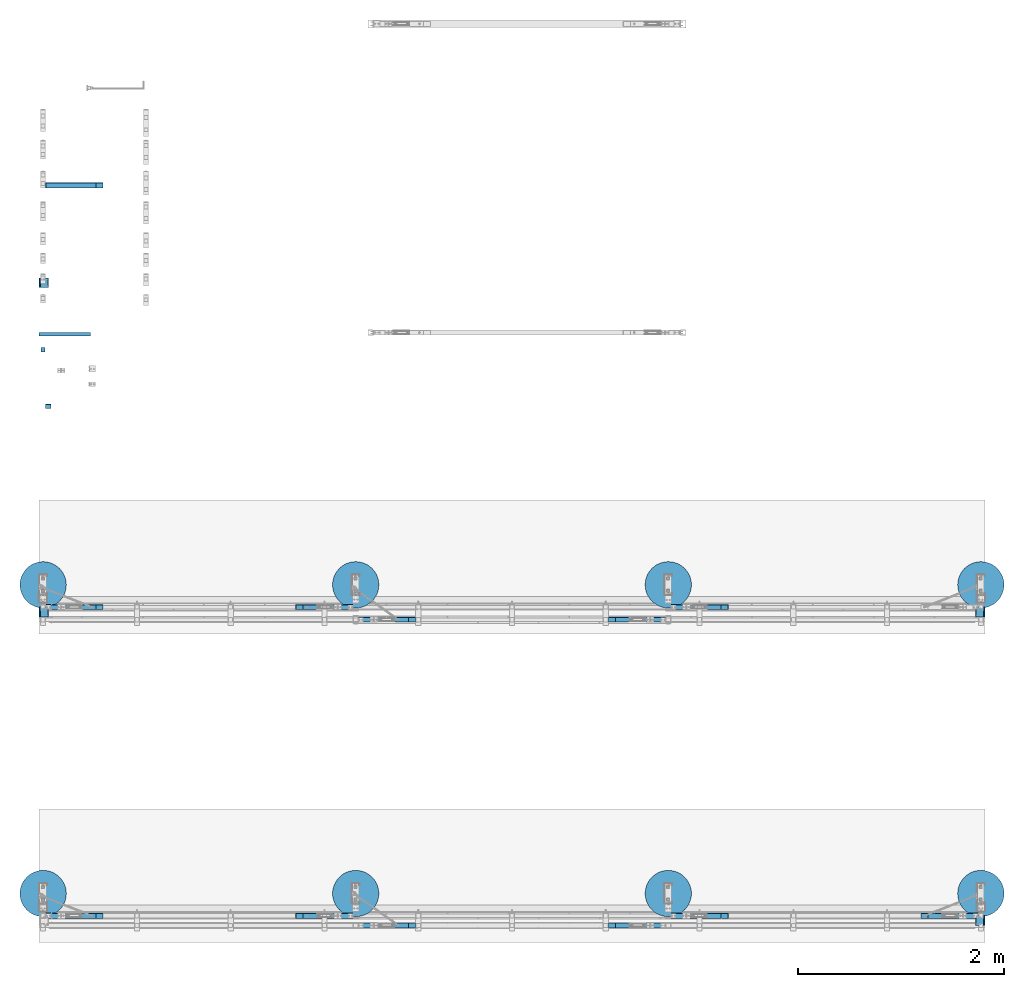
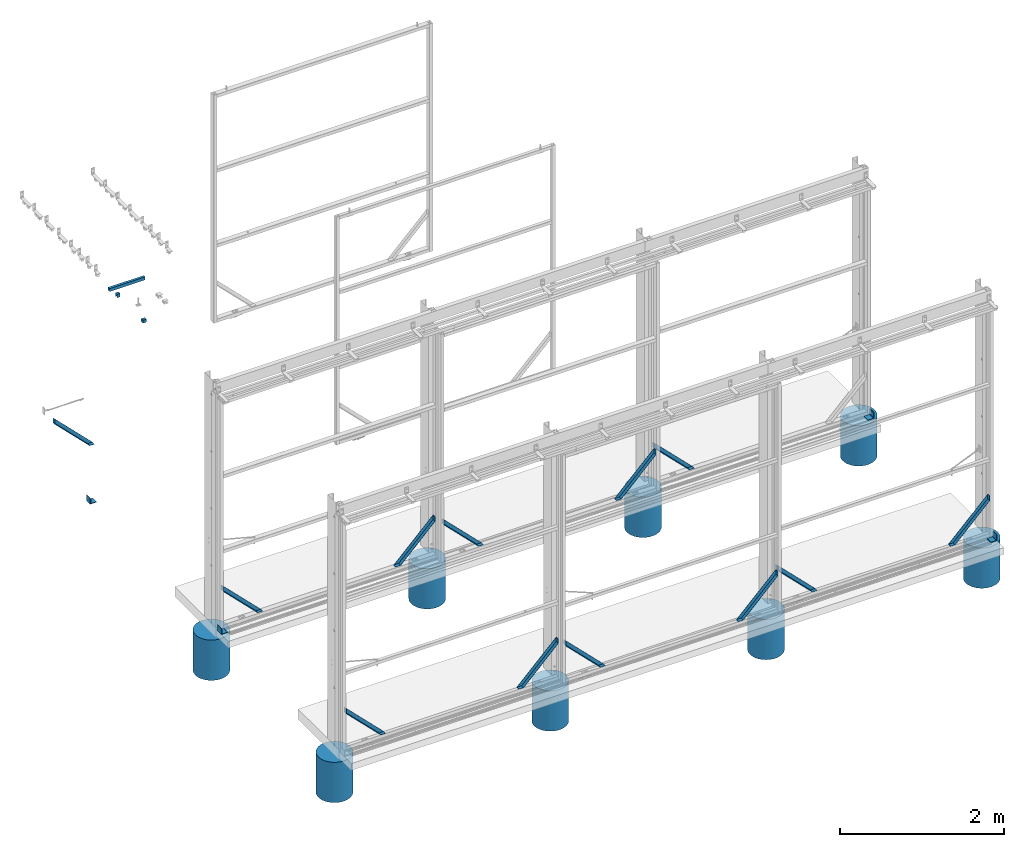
# One storey, part 8 of 91: 27 beams, 27 elements without a shape of their own.
"""IFC2X3 building model written with IfcOpenShell, lengths in millimetres."""

from ifc_helpers import new_model, si_unit, frame, origin_with_axes, origin_2d_with_axis, place, context, subcontext, project, spatial, hollow_rectangle, circle, l_section, c_section, extrude, faceted_brep, material, type_object, element, aggregate, save


model = new_model("IFC2X3")

# Units and contexts
model_context = context("Model", 3, precision=1e-05, world=origin_with_axes())
body_context = subcontext(model_context, "Body", "Model", "MODEL_VIEW")
ifc_project = project(units=[si_unit("LENGTHUNIT", "METRE", prefix="MILLI"), si_unit("AREAUNIT", "SQUARE_METRE"), si_unit("VOLUMEUNIT", "CUBIC_METRE"), si_unit("MASSUNIT", "GRAM", prefix="KILO"), si_unit("TIMEUNIT", "SECOND"), si_unit("PLANEANGLEUNIT", "RADIAN"), si_unit("SOLIDANGLEUNIT", "STERADIAN"), si_unit("THERMODYNAMICTEMPERATUREUNIT", "DEGREE_CELSIUS"), si_unit("LUMINOUSINTENSITYUNIT", "LUMEN")], contexts=[model_context])

# Site, building, storey
site_placement = place(None, origin_with_axes())
site = spatial("IfcSite", under=ifc_project, at=site_placement, Name="Undefined", CompositionType="ELEMENT")
building_placement = place(site_placement, origin_with_axes())
building = spatial("IfcBuilding", under=site, at=building_placement, Name="Undefined", CompositionType="ELEMENT")
storey_placement = place(building_placement, origin_with_axes())
storey = spatial("IfcBuildingStorey", under=building, at=storey_placement, Name="Undefined", CompositionType="ELEMENT", Elevation=0.0)

# Assembly, beam
assembly_1_placement = place(storey_placement, origin_with_axes())
assembly_1 = element("IfcElementAssembly", 1, at=assembly_1_placement, inside=storey, Name="DOOR STOPPER", AssemblyPlace="NOTDEFINED", PredefinedType="RIGID_FRAME")
ifc_material_1 = material(Name="STEEL/300PLUS")
beam_type_1 = type_object("IfcBeamType", Name="EA90*90*8", PredefinedType="NOTDEFINED")
beam_1_placement = place(assembly_1_placement, frame((-116788.84, 90817.6509765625, -12.0), z_axis=(0.0, 0.0, 1.0), x_axis=(0.0, 1.0, 0.0)))
beam_1 = element("IfcBeam", 2, at=beam_1_placement, type_object=beam_type_1, material=ifc_material_1, Name="DOOR STOPPER", ObjectType="EA90*90*8", context=body_context, shape_type="SweptSolid", body=[
    extrude(l_section(Depth=90.0, Width=90.0, Thickness=7.800000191, FilletRadius=8.0, EdgeRadius=5.0, at=origin_2d_with_axis()), frame((95.0, 0.0, 0.0), z_axis=(-1.0, 0.0, 0.0), x_axis=(0.0, -1.0, 0.0)), (0.0, 0.0, 1.0), 95.0),
])
aggregate(assembly_1, [beam_1])

assembly_2_placement = place(storey_placement, origin_with_axes())
assembly_2 = element("IfcElementAssembly", 3, at=assembly_2_placement, inside=storey, Name="DOOR STOPPER", AssemblyPlace="NOTDEFINED", PredefinedType="RIGID_FRAME")
beam_2_placement = place(assembly_2_placement, frame((-107690.34, 87712.6509765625, -12.0), z_axis=(0.0, 0.0, 1.0), x_axis=(0.0, -1.0, 0.0)))
beam_2 = element("IfcBeam", 4, at=beam_2_placement, type_object=beam_type_1, material=ifc_material_1, Name="DOOR STOPPER", ObjectType="EA90*90*8", context=body_context, shape_type="SweptSolid", body=[
    extrude(l_section(Depth=90.0, Width=90.0, Thickness=7.800000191, FilletRadius=8.0, EdgeRadius=5.0, at=origin_2d_with_axis()), frame((95.0, 0.0, 0.0), z_axis=(-1.0, 0.0, 0.0), x_axis=(0.0, -1.0, 0.0)), (0.0, 0.0, 1.0), 95.0),
])
aggregate(assembly_2, [beam_2])

assembly_3_placement = place(storey_placement, origin_with_axes())
assembly_3 = element("IfcElementAssembly", 5, at=assembly_3_placement, inside=storey, Name="DOOR STOPPER", AssemblyPlace="NOTDEFINED", PredefinedType="RIGID_FRAME")
beam_3_placement = place(assembly_3_placement, frame((-116788.84, 87617.6509765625, -12.0), z_axis=(0.0, 0.0, 1.0), x_axis=(0.0, 1.0, 0.0)))
beam_3 = element("IfcBeam", 6, at=beam_3_placement, type_object=beam_type_1, material=ifc_material_1, Name="DOOR STOPPER", ObjectType="EA90*90*8", context=body_context, shape_type="SweptSolid", body=[
    extrude(l_section(Depth=90.0, Width=90.0, Thickness=7.800000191, FilletRadius=8.0, EdgeRadius=5.0, at=origin_2d_with_axis()), frame((95.0, 0.0, 0.0), z_axis=(-1.0, 0.0, 0.0), x_axis=(0.0, -1.0, 0.0)), (0.0, 0.0, 1.0), 95.0),
])
aggregate(assembly_3, [beam_3])

assembly_4_placement = place(storey_placement, origin_with_axes())
assembly_4 = element("IfcElementAssembly", 7, at=assembly_4_placement, inside=storey, Name="DOOR STOPPER", AssemblyPlace="NOTDEFINED", PredefinedType="RIGID_FRAME")
beam_4_placement = place(assembly_4_placement, frame((-107690.34, 84712.6509765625, -12.0), z_axis=(0.0, 0.0, 1.0), x_axis=(0.0, -1.0, 0.0)))
beam_4 = element("IfcBeam", 8, at=beam_4_placement, type_object=beam_type_1, material=ifc_material_1, Name="DOOR STOPPER", ObjectType="EA90*90*8", context=body_context, shape_type="SweptSolid", body=[
    extrude(l_section(Depth=90.0, Width=90.0, Thickness=7.800000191, FilletRadius=8.0, EdgeRadius=5.0, at=origin_2d_with_axis()), frame((95.0, 0.0, 0.0), z_axis=(-1.0, 0.0, 0.0), x_axis=(0.0, -1.0, 0.0)), (0.0, 0.0, 1.0), 95.0),
])
aggregate(assembly_4, [beam_4])

assembly_5_placement = place(storey_placement, origin_with_axes())
assembly_5 = element("IfcElementAssembly", 9, at=assembly_5_placement, inside=storey, Name="TOP TRACK BRACKET", AssemblyPlace="NOTDEFINED", PredefinedType="RIGID_FRAME")
ifc_material_2 = material(Name="STEEL/Steel_Undefined")
beam_type_2 = type_object("IfcBeamType", Name="CC41-1.5-7-53", PredefinedType="NOTDEFINED")
beam_5_placement = place(assembly_5_placement, frame((-116815.84, 90212.15, 3414.5), z_axis=(0.0, -1.0, 0.0), x_axis=(1.0, 0.0, 0.0)))
beam_5 = element("IfcBeam", 10, at=beam_5_placement, type_object=beam_type_2, material=ifc_material_2, Name="TOP TRACK BRACKET", ObjectType="CC41-1.5-7-53", context=body_context, shape_type="SweptSolid", body=[
    extrude(c_section(Depth=41.0, Width=53.0, WallThickness=1.5, Girth=7.0, at=origin_2d_with_axis()), frame((40.0, 0.0, 0.0), z_axis=(-1.0, 0.0, 0.0), x_axis=(0.0, -1.0, 0.0)), (0.0, 0.0, 1.0), 40.0),
])
aggregate(assembly_5, [beam_5])

assembly_6_placement = place(storey_placement, origin_with_axes())
assembly_6 = element("IfcElementAssembly", 11, at=assembly_6_placement, inside=storey, Name="SLIDING DOOR INSERT", AssemblyPlace="NOTDEFINED", PredefinedType="RIGID_FRAME")
beam_type_3 = type_object("IfcBeamType", Name="SHS:45X45X1.6", PredefinedType="NOTDEFINED")
beam_6_placement = place(assembly_6_placement, frame((-116720.84, 89662.15, 3351.0), z_axis=(0.0, -1.0, 0.0), x_axis=(-1.0, 0.0, 0.0)))
beam_6 = element("IfcBeam", 12, at=beam_6_placement, type_object=beam_type_3, material=ifc_material_1, Name="SLIDING DOOR INSERT", ObjectType="SHS:45X45X1.6", context=body_context, shape_type="SweptSolid", body=[
    extrude(hollow_rectangle(XDim=45.0, YDim=45.0, WallThickness=1.600000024, InnerFilletRadius=1.600000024, OuterFilletRadius=3.200000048, at=origin_2d_with_axis()), frame((50.0, 0.0, 0.0), z_axis=(-1.0, 0.0, 0.0), x_axis=(0.0, -1.0, 0.0)), (0.0, 0.0, 1.0), 50.0),
])
aggregate(assembly_6, [beam_6])

assembly_7_placement = place(storey_placement, origin_with_axes())
assembly_7 = element("IfcElementAssembly", 13, at=assembly_7_placement, inside=storey, Name="TOP TRACK", AssemblyPlace="NOTDEFINED", PredefinedType="RIGID_FRAME")
beam_type_4 = type_object("IfcBeamType", Name="CC35-1.5-7-45", PredefinedType="NOTDEFINED")
beam_7_placement = place(assembly_7_placement, frame((-116833.84, 90362.15, 3417.0), z_axis=(0.0, -1.0, 0.0), x_axis=(1.0, 0.0, 0.0)))
beam_7 = element("IfcBeam", 14, at=beam_7_placement, type_object=beam_type_4, material=ifc_material_2, Name="TOP TRACK", ObjectType="CC35-1.5-7-45", context=body_context, shape_type="SweptSolid", body=[
    extrude(c_section(Depth=35.0, Width=45.0, WallThickness=1.5, Girth=7.0, at=origin_2d_with_axis()), frame((500.0, 0.0, 0.0), z_axis=(-1.0, 0.0, 0.0), x_axis=(0.0, -1.0, 0.0)), (0.0, 0.0, 1.0), 500.0),
])
aggregate(assembly_7, [beam_7])

assembly_8_placement = place(storey_placement, origin_with_axes())
assembly_8 = element("IfcElementAssembly", 15, at=assembly_8_placement, inside=storey, Name="ANGLE BRACE", AssemblyPlace="NOTDEFINED", PredefinedType="RIGID_FRAME")
beam_type_5 = type_object("IfcBeamType", Name="EA50*50*3", PredefinedType="NOTDEFINED")
beam_8_placement = place(assembly_8_placement, frame((-116745.843168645, 91812.15, 591.614935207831), z_axis=(1.0, 0.0, 0.0), x_axis=(0.0, 0.0, -1.0)))
beam_8 = element("IfcBeam", 16, at=beam_8_placement, type_object=beam_type_5, material=ifc_material_1, Name="ANGLE BRACE", ObjectType="EA50*50*3", context=body_context, shape_type="Brep", body=[
    faceted_brep([(70.7106780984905, 25.0, -24.9999999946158), (70.7106780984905, -25.0, -24.9999999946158), (1.90630089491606e-09, -25.0, -25.0), (1.90630089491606e-09, 25.0, -25.0), (558.614501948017, 25.0, 462.903808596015), (558.614501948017, -25.0, 462.903808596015), (558.614501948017, 25.0, 533.614501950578), (558.614501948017, -25.0, 533.614501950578), (555.614501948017, -25.0, 464.146449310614), (69.4680374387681, -25.0, -21.9999999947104), (2.999998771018, -25.0, -21.9999999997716), (555.614501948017, -25.0, 530.614483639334), (2.999998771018, 22.0, -21.9999999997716), (50.0000004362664, 22.0, 25.0000000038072), (50.0000004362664, 25.0, 25.0000000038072), (69.4680374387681, 22.0, -21.9999999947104), (555.614501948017, 22.0, 464.146449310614), (555.614501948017, 22.0, 530.614483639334), (508.614501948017, 22.0, 483.614487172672), (508.614501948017, 25.0, 483.614487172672)], [[[0, 1, 2, 3]], [[1, 0, 4, 5]], [[5, 4, 6, 7]], [[8, 9, 10, 2, 1, 5, 7, 11]], [[2, 10, 12, 13, 14, 3]], [[9, 15, 12, 10]], [[13, 12, 15, 16, 17, 18]], [[14, 13, 18, 19]], [[4, 0, 3, 14, 19, 6]], [[18, 17, 11, 7, 6, 19]], [[16, 8, 11, 17]], [[15, 9, 8, 16]]]),
])
aggregate(assembly_8, [beam_8])

assembly_9_placement = place(storey_placement, origin_with_axes())
assembly_9 = element("IfcElementAssembly", 17, at=assembly_9_placement, inside=storey, Name="Angle Brace", AssemblyPlace="NOTDEFINED", PredefinedType="RIGID_FRAME")
beam_9_placement = place(assembly_9_placement, frame((-110670.843168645, 87712.15, 591.614935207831), z_axis=(1.0, 0.0, 0.0), x_axis=(0.0, 0.0, -1.0)))
beam_9 = element("IfcBeam", 18, at=beam_9_placement, type_object=beam_type_5, material=ifc_material_1, Name="Angle Brace", ObjectType="EA50*50*3", context=body_context, shape_type="Brep", body=[
    faceted_brep([(70.7106780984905, 25.0, -24.9999999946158), (70.7106780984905, -25.0, -24.9999999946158), (1.90630089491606e-09, -25.0, -25.0), (1.90630089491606e-09, 25.0, -25.0), (558.614501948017, 25.0, 462.903808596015), (558.614501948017, -25.0, 462.903808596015), (558.614501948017, 25.0, 533.614501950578), (558.614501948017, -25.0, 533.614501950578), (555.614501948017, -25.0, 464.146449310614), (69.4680374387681, -25.0, -21.9999999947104), (2.999998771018, -25.0, -21.9999999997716), (555.614501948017, -25.0, 530.614483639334), (2.999998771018, 22.0, -21.9999999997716), (50.0000004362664, 22.0, 25.0000000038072), (50.0000004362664, 25.0, 25.0000000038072), (69.4680374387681, 22.0, -21.9999999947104), (555.614501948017, 22.0, 464.146449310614), (555.614501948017, 22.0, 530.614483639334), (508.614501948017, 22.0, 483.614487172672), (508.614501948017, 25.0, 483.614487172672)], [[[0, 1, 2, 3]], [[1, 0, 4, 5]], [[5, 4, 6, 7]], [[8, 9, 10, 2, 1, 5, 7, 11]], [[2, 10, 12, 13, 14, 3]], [[9, 15, 12, 10]], [[13, 12, 15, 16, 17, 18]], [[14, 13, 18, 19]], [[4, 0, 3, 14, 19, 6]], [[18, 17, 11, 7, 6, 19]], [[16, 8, 11, 17]], [[15, 9, 8, 16]]]),
])
aggregate(assembly_9, [beam_9])

assembly_10_placement = place(storey_placement, origin_with_axes())
assembly_10 = element("IfcElementAssembly", 19, at=assembly_10_placement, inside=storey, Name="Angle Brace", AssemblyPlace="NOTDEFINED", PredefinedType="RIGID_FRAME")
beam_10_placement = place(assembly_10_placement, frame((-111304.454935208, 87590.15, 57.9968313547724), z_axis=(0.0, 0.0, 1.0), x_axis=(1.0, 0.0, 0.0)))
beam_10 = element("IfcBeam", 20, at=beam_10_placement, type_object=beam_type_5, material=ifc_material_1, Name="Angle Brace", ObjectType="EA50*50*3", context=body_context, shape_type="Brep", body=[
    faceted_brep([(70.7106780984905, 25.0, -24.9999999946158), (70.7106780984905, -25.0, -24.9999999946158), (1.90630089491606e-09, -25.0, -25.0), (1.90630089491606e-09, 25.0, -25.0), (558.614501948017, 25.0, 462.903808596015), (558.614501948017, -25.0, 462.903808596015), (558.614501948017, 25.0, 533.614501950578), (558.614501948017, -25.0, 533.614501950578), (555.614501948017, -25.0, 464.146449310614), (69.4680374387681, -25.0, -21.9999999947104), (2.999998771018, -25.0, -21.9999999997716), (555.614501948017, -25.0, 530.614483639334), (2.999998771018, 22.0, -21.9999999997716), (50.0000004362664, 22.0, 25.0000000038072), (50.0000004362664, 25.0, 25.0000000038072), (69.4680374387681, 22.0, -21.9999999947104), (555.614501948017, 22.0, 464.146449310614), (555.614501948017, 22.0, 530.614483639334), (508.614501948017, 22.0, 483.614487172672), (508.614501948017, 25.0, 483.614487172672)], [[[0, 1, 2, 3]], [[1, 0, 4, 5]], [[5, 4, 6, 7]], [[8, 9, 10, 2, 1, 5, 7, 11]], [[2, 10, 12, 13, 14, 3]], [[9, 15, 12, 10]], [[13, 12, 15, 16, 17, 18]], [[14, 13, 18, 19]], [[4, 0, 3, 14, 19, 6]], [[18, 17, 11, 7, 6, 19]], [[16, 8, 11, 17]], [[15, 9, 8, 16]]]),
])
aggregate(assembly_10, [beam_10])

assembly_11_placement = place(storey_placement, origin_with_axes())
assembly_11 = element("IfcElementAssembly", 21, at=assembly_11_placement, inside=storey, Name="Angle Brace", AssemblyPlace="NOTDEFINED", PredefinedType="RIGID_FRAME")
beam_11_placement = place(assembly_11_placement, frame((-113708.343168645, 87590.15, 591.614935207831), z_axis=(1.0, 0.0, 0.0), x_axis=(0.0, 0.0, -1.0)))
beam_11 = element("IfcBeam", 22, at=beam_11_placement, type_object=beam_type_5, material=ifc_material_1, Name="Angle Brace", ObjectType="EA50*50*3", context=body_context, shape_type="Brep", body=[
    faceted_brep([(70.7106780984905, 25.0, -24.9999999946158), (70.7106780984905, -25.0, -24.9999999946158), (1.90630089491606e-09, -25.0, -25.0), (1.90630089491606e-09, 25.0, -25.0), (558.614501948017, 25.0, 462.903808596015), (558.614501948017, -25.0, 462.903808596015), (558.614501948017, 25.0, 533.614501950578), (558.614501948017, -25.0, 533.614501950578), (555.614501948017, -25.0, 464.146449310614), (69.4680374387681, -25.0, -21.9999999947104), (2.999998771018, -25.0, -21.9999999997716), (555.614501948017, -25.0, 530.614483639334), (2.999998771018, 22.0, -21.9999999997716), (50.0000004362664, 22.0, 25.0000000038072), (50.0000004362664, 25.0, 25.0000000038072), (69.4680374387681, 22.0, -21.9999999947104), (555.614501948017, 22.0, 464.146449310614), (555.614501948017, 22.0, 530.614483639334), (508.614501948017, 22.0, 483.614487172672), (508.614501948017, 25.0, 483.614487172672)], [[[0, 1, 2, 3]], [[1, 0, 4, 5]], [[5, 4, 6, 7]], [[8, 9, 10, 2, 1, 5, 7, 11]], [[2, 10, 12, 13, 14, 3]], [[9, 15, 12, 10]], [[13, 12, 15, 16, 17, 18]], [[14, 13, 18, 19]], [[4, 0, 3, 14, 19, 6]], [[18, 17, 11, 7, 6, 19]], [[16, 8, 11, 17]], [[15, 9, 8, 16]]]),
])
aggregate(assembly_11, [beam_11])

assembly_12_placement = place(storey_placement, origin_with_axes())
assembly_12 = element("IfcElementAssembly", 23, at=assembly_12_placement, inside=storey, Name="Angle Brace", AssemblyPlace="NOTDEFINED", PredefinedType="RIGID_FRAME")
beam_12_placement = place(assembly_12_placement, frame((-114341.954935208, 87712.15, 57.9968313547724), z_axis=(0.0, 0.0, 1.0), x_axis=(1.0, 0.0, 0.0)))
beam_12 = element("IfcBeam", 24, at=beam_12_placement, type_object=beam_type_5, material=ifc_material_1, Name="Angle Brace", ObjectType="EA50*50*3", context=body_context, shape_type="Brep", body=[
    faceted_brep([(70.7106780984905, 25.0, -24.9999999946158), (70.7106780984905, -25.0, -24.9999999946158), (1.90630089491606e-09, -25.0, -25.0), (1.90630089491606e-09, 25.0, -25.0), (558.614501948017, 25.0, 462.903808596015), (558.614501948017, -25.0, 462.903808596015), (558.614501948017, 25.0, 533.614501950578), (558.614501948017, -25.0, 533.614501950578), (555.614501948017, -25.0, 464.146449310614), (69.4680374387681, -25.0, -21.9999999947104), (2.999998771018, -25.0, -21.9999999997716), (555.614501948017, -25.0, 530.614483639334), (2.999998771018, 22.0, -21.9999999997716), (50.0000004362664, 22.0, 25.0000000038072), (50.0000004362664, 25.0, 25.0000000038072), (69.4680374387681, 22.0, -21.9999999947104), (555.614501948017, 22.0, 464.146449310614), (555.614501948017, 22.0, 530.614483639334), (508.614501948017, 22.0, 483.614487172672), (508.614501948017, 25.0, 483.614487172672)], [[[0, 1, 2, 3]], [[1, 0, 4, 5]], [[5, 4, 6, 7]], [[8, 9, 10, 2, 1, 5, 7, 11]], [[2, 10, 12, 13, 14, 3]], [[9, 15, 12, 10]], [[13, 12, 15, 16, 17, 18]], [[14, 13, 18, 19]], [[4, 0, 3, 14, 19, 6]], [[18, 17, 11, 7, 6, 19]], [[16, 8, 11, 17]], [[15, 9, 8, 16]]]),
])
aggregate(assembly_12, [beam_12])

assembly_13_placement = place(storey_placement, origin_with_axes())
assembly_13 = element("IfcElementAssembly", 25, at=assembly_13_placement, inside=storey, Name="Angle Brace", AssemblyPlace="NOTDEFINED", PredefinedType="RIGID_FRAME")
beam_13_placement = place(assembly_13_placement, frame((-116745.843168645, 87712.15, 591.614935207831), z_axis=(1.0, 0.0, 0.0), x_axis=(0.0, 0.0, -1.0)))
beam_13 = element("IfcBeam", 26, at=beam_13_placement, type_object=beam_type_5, material=ifc_material_1, Name="Angle Brace", ObjectType="EA50*50*3", context=body_context, shape_type="Brep", body=[
    faceted_brep([(70.7106780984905, 25.0, -24.9999999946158), (70.7106780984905, -25.0, -24.9999999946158), (1.90630089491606e-09, -25.0, -25.0), (1.90630089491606e-09, 25.0, -25.0), (558.614501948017, 25.0, 462.903808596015), (558.614501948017, -25.0, 462.903808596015), (558.614501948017, 25.0, 533.614501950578), (558.614501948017, -25.0, 533.614501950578), (555.614501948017, -25.0, 464.146449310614), (69.4680374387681, -25.0, -21.9999999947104), (2.999998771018, -25.0, -21.9999999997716), (555.614501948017, -25.0, 530.614483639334), (2.999998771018, 22.0, -21.9999999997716), (50.0000004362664, 22.0, 25.0000000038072), (50.0000004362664, 25.0, 25.0000000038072), (69.4680374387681, 22.0, -21.9999999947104), (555.614501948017, 22.0, 464.146449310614), (555.614501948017, 22.0, 530.614483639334), (508.614501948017, 22.0, 483.614487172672), (508.614501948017, 25.0, 483.614487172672)], [[[0, 1, 2, 3]], [[1, 0, 4, 5]], [[5, 4, 6, 7]], [[8, 9, 10, 2, 1, 5, 7, 11]], [[2, 10, 12, 13, 14, 3]], [[9, 15, 12, 10]], [[13, 12, 15, 16, 17, 18]], [[14, 13, 18, 19]], [[4, 0, 3, 14, 19, 6]], [[18, 17, 11, 7, 6, 19]], [[16, 8, 11, 17]], [[15, 9, 8, 16]]]),
])
aggregate(assembly_13, [beam_13])

assembly_14_placement = place(storey_placement, origin_with_axes())
assembly_14 = element("IfcElementAssembly", 27, at=assembly_14_placement, inside=storey, Name="Angle Brace", AssemblyPlace="NOTDEFINED", PredefinedType="RIGID_FRAME")
beam_14_placement = place(assembly_14_placement, frame((-108266.954935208, 84712.15, 57.9968313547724), z_axis=(0.0, 0.0, 1.0), x_axis=(1.0, 0.0, 0.0)))
beam_14 = element("IfcBeam", 28, at=beam_14_placement, type_object=beam_type_5, material=ifc_material_1, Name="Angle Brace", ObjectType="EA50*50*3", context=body_context, shape_type="Brep", body=[
    faceted_brep([(70.7106780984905, 25.0, -24.9999999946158), (70.7106780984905, -25.0, -24.9999999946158), (1.90630089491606e-09, -25.0, -25.0), (1.90630089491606e-09, 25.0, -25.0), (558.614501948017, 25.0, 462.903808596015), (558.614501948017, -25.0, 462.903808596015), (558.614501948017, 25.0, 533.614501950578), (558.614501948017, -25.0, 533.614501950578), (555.614501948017, -25.0, 464.146449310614), (69.4680374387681, -25.0, -21.9999999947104), (2.999998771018, -25.0, -21.9999999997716), (555.614501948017, -25.0, 530.614483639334), (2.999998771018, 22.0, -21.9999999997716), (50.0000004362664, 22.0, 25.0000000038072), (50.0000004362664, 25.0, 25.0000000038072), (69.4680374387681, 22.0, -21.9999999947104), (555.614501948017, 22.0, 464.146449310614), (555.614501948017, 22.0, 530.614483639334), (508.614501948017, 22.0, 483.614487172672), (508.614501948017, 25.0, 483.614487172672)], [[[0, 1, 2, 3]], [[1, 0, 4, 5]], [[5, 4, 6, 7]], [[8, 9, 10, 2, 1, 5, 7, 11]], [[2, 10, 12, 13, 14, 3]], [[9, 15, 12, 10]], [[13, 12, 15, 16, 17, 18]], [[14, 13, 18, 19]], [[4, 0, 3, 14, 19, 6]], [[18, 17, 11, 7, 6, 19]], [[16, 8, 11, 17]], [[15, 9, 8, 16]]]),
])
aggregate(assembly_14, [beam_14])

assembly_15_placement = place(storey_placement, origin_with_axes())
assembly_15 = element("IfcElementAssembly", 29, at=assembly_15_placement, inside=storey, Name="Angle Brace", AssemblyPlace="NOTDEFINED", PredefinedType="RIGID_FRAME")
beam_15_placement = place(assembly_15_placement, frame((-110670.843168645, 84712.15, 591.614935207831), z_axis=(1.0, 0.0, 0.0), x_axis=(0.0, 0.0, -1.0)))
beam_15 = element("IfcBeam", 30, at=beam_15_placement, type_object=beam_type_5, material=ifc_material_1, Name="Angle Brace", ObjectType="EA50*50*3", context=body_context, shape_type="Brep", body=[
    faceted_brep([(70.7106780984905, 25.0, -24.9999999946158), (70.7106780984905, -25.0, -24.9999999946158), (1.90630089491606e-09, -25.0, -25.0), (1.90630089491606e-09, 25.0, -25.0), (558.614501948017, 25.0, 462.903808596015), (558.614501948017, -25.0, 462.903808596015), (558.614501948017, 25.0, 533.614501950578), (558.614501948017, -25.0, 533.614501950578), (555.614501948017, -25.0, 464.146449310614), (69.4680374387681, -25.0, -21.9999999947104), (2.999998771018, -25.0, -21.9999999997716), (555.614501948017, -25.0, 530.614483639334), (2.999998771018, 22.0, -21.9999999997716), (50.0000004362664, 22.0, 25.0000000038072), (50.0000004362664, 25.0, 25.0000000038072), (69.4680374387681, 22.0, -21.9999999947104), (555.614501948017, 22.0, 464.146449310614), (555.614501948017, 22.0, 530.614483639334), (508.614501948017, 22.0, 483.614487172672), (508.614501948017, 25.0, 483.614487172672)], [[[0, 1, 2, 3]], [[1, 0, 4, 5]], [[5, 4, 6, 7]], [[8, 9, 10, 2, 1, 5, 7, 11]], [[2, 10, 12, 13, 14, 3]], [[9, 15, 12, 10]], [[13, 12, 15, 16, 17, 18]], [[14, 13, 18, 19]], [[4, 0, 3, 14, 19, 6]], [[18, 17, 11, 7, 6, 19]], [[16, 8, 11, 17]], [[15, 9, 8, 16]]]),
])
aggregate(assembly_15, [beam_15])

assembly_16_placement = place(storey_placement, origin_with_axes())
assembly_16 = element("IfcElementAssembly", 31, at=assembly_16_placement, inside=storey, Name="Angle Brace", AssemblyPlace="NOTDEFINED", PredefinedType="RIGID_FRAME")
beam_16_placement = place(assembly_16_placement, frame((-111304.454935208, 84618.15, 57.9968313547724), z_axis=(0.0, 0.0, 1.0), x_axis=(1.0, 0.0, 0.0)))
beam_16 = element("IfcBeam", 32, at=beam_16_placement, type_object=beam_type_5, material=ifc_material_1, Name="Angle Brace", ObjectType="EA50*50*3", context=body_context, shape_type="Brep", body=[
    faceted_brep([(70.7106780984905, 25.0, -24.9999999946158), (70.7106780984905, -25.0, -24.9999999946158), (1.90630089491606e-09, -25.0, -25.0), (1.90630089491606e-09, 25.0, -25.0), (558.614501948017, 25.0, 462.903808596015), (558.614501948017, -25.0, 462.903808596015), (558.614501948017, 25.0, 533.614501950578), (558.614501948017, -25.0, 533.614501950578), (555.614501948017, -25.0, 464.146449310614), (69.4680374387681, -25.0, -21.9999999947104), (2.999998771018, -25.0, -21.9999999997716), (555.614501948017, -25.0, 530.614483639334), (2.999998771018, 22.0, -21.9999999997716), (50.0000004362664, 22.0, 25.0000000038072), (50.0000004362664, 25.0, 25.0000000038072), (69.4680374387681, 22.0, -21.9999999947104), (555.614501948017, 22.0, 464.146449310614), (555.614501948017, 22.0, 530.614483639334), (508.614501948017, 22.0, 483.614487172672), (508.614501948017, 25.0, 483.614487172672)], [[[0, 1, 2, 3]], [[1, 0, 4, 5]], [[5, 4, 6, 7]], [[8, 9, 10, 2, 1, 5, 7, 11]], [[2, 10, 12, 13, 14, 3]], [[9, 15, 12, 10]], [[13, 12, 15, 16, 17, 18]], [[14, 13, 18, 19]], [[4, 0, 3, 14, 19, 6]], [[18, 17, 11, 7, 6, 19]], [[16, 8, 11, 17]], [[15, 9, 8, 16]]]),
])
aggregate(assembly_16, [beam_16])

assembly_17_placement = place(storey_placement, origin_with_axes())
assembly_17 = element("IfcElementAssembly", 33, at=assembly_17_placement, inside=storey, Name="Angle Brace", AssemblyPlace="NOTDEFINED", PredefinedType="RIGID_FRAME")
beam_17_placement = place(assembly_17_placement, frame((-113708.343168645, 84618.15, 591.614935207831), z_axis=(1.0, 0.0, 0.0), x_axis=(0.0, 0.0, -1.0)))
beam_17 = element("IfcBeam", 34, at=beam_17_placement, type_object=beam_type_5, material=ifc_material_1, Name="Angle Brace", ObjectType="EA50*50*3", context=body_context, shape_type="Brep", body=[
    faceted_brep([(70.7106780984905, 25.0, -24.9999999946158), (70.7106780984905, -25.0, -24.9999999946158), (1.90630089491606e-09, -25.0, -25.0), (1.90630089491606e-09, 25.0, -25.0), (558.614501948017, 25.0, 462.903808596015), (558.614501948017, -25.0, 462.903808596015), (558.614501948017, 25.0, 533.614501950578), (558.614501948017, -25.0, 533.614501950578), (555.614501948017, -25.0, 464.146449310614), (69.4680374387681, -25.0, -21.9999999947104), (2.999998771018, -25.0, -21.9999999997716), (555.614501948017, -25.0, 530.614483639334), (2.999998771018, 22.0, -21.9999999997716), (50.0000004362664, 22.0, 25.0000000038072), (50.0000004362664, 25.0, 25.0000000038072), (69.4680374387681, 22.0, -21.9999999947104), (555.614501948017, 22.0, 464.146449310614), (555.614501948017, 22.0, 530.614483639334), (508.614501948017, 22.0, 483.614487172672), (508.614501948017, 25.0, 483.614487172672)], [[[0, 1, 2, 3]], [[1, 0, 4, 5]], [[5, 4, 6, 7]], [[8, 9, 10, 2, 1, 5, 7, 11]], [[2, 10, 12, 13, 14, 3]], [[9, 15, 12, 10]], [[13, 12, 15, 16, 17, 18]], [[14, 13, 18, 19]], [[4, 0, 3, 14, 19, 6]], [[18, 17, 11, 7, 6, 19]], [[16, 8, 11, 17]], [[15, 9, 8, 16]]]),
])
aggregate(assembly_17, [beam_17])

assembly_18_placement = place(storey_placement, origin_with_axes())
assembly_18 = element("IfcElementAssembly", 35, at=assembly_18_placement, inside=storey, Name="Angle Brace", AssemblyPlace="NOTDEFINED", PredefinedType="RIGID_FRAME")
beam_18_placement = place(assembly_18_placement, frame((-114341.954935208, 84712.15, 57.9968313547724), z_axis=(0.0, 0.0, 1.0), x_axis=(1.0, 0.0, 0.0)))
beam_18 = element("IfcBeam", 36, at=beam_18_placement, type_object=beam_type_5, material=ifc_material_1, Name="Angle Brace", ObjectType="EA50*50*3", context=body_context, shape_type="Brep", body=[
    faceted_brep([(70.7106780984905, 25.0, -24.9999999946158), (70.7106780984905, -25.0, -24.9999999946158), (1.90630089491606e-09, -25.0, -25.0), (1.90630089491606e-09, 25.0, -25.0), (558.614501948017, 25.0, 462.903808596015), (558.614501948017, -25.0, 462.903808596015), (558.614501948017, 25.0, 533.614501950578), (558.614501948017, -25.0, 533.614501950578), (555.614501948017, -25.0, 464.146449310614), (69.4680374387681, -25.0, -21.9999999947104), (2.999998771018, -25.0, -21.9999999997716), (555.614501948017, -25.0, 530.614483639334), (2.999998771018, 22.0, -21.9999999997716), (50.0000004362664, 22.0, 25.0000000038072), (50.0000004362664, 25.0, 25.0000000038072), (69.4680374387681, 22.0, -21.9999999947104), (555.614501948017, 22.0, 464.146449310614), (555.614501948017, 22.0, 530.614483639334), (508.614501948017, 22.0, 483.614487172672), (508.614501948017, 25.0, 483.614487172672)], [[[0, 1, 2, 3]], [[1, 0, 4, 5]], [[5, 4, 6, 7]], [[8, 9, 10, 2, 1, 5, 7, 11]], [[2, 10, 12, 13, 14, 3]], [[9, 15, 12, 10]], [[13, 12, 15, 16, 17, 18]], [[14, 13, 18, 19]], [[4, 0, 3, 14, 19, 6]], [[18, 17, 11, 7, 6, 19]], [[16, 8, 11, 17]], [[15, 9, 8, 16]]]),
])
aggregate(assembly_18, [beam_18])

assembly_19_placement = place(storey_placement, origin_with_axes())
assembly_19 = element("IfcElementAssembly", 37, at=assembly_19_placement, inside=storey, Name="Angle Brace", AssemblyPlace="NOTDEFINED", PredefinedType="RIGID_FRAME")
beam_19_placement = place(assembly_19_placement, frame((-116745.843168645, 84712.15, 591.614935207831), z_axis=(1.0, 0.0, 0.0), x_axis=(0.0, 0.0, -1.0)))
beam_19 = element("IfcBeam", 38, at=beam_19_placement, type_object=beam_type_5, material=ifc_material_1, Name="Angle Brace", ObjectType="EA50*50*3", context=body_context, shape_type="Brep", body=[
    faceted_brep([(70.7106780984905, 25.0, -24.9999999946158), (70.7106780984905, -25.0, -24.9999999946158), (1.90630089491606e-09, -25.0, -25.0), (1.90630089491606e-09, 25.0, -25.0), (558.614501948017, 25.0, 462.903808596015), (558.614501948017, -25.0, 462.903808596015), (558.614501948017, 25.0, 533.614501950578), (558.614501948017, -25.0, 533.614501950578), (555.614501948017, -25.0, 464.146449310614), (69.4680374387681, -25.0, -21.9999999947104), (2.999998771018, -25.0, -21.9999999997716), (555.614501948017, -25.0, 530.614483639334), (2.999998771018, 22.0, -21.9999999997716), (50.0000004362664, 22.0, 25.0000000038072), (50.0000004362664, 25.0, 25.0000000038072), (69.4680374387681, 22.0, -21.9999999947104), (555.614501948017, 22.0, 464.146449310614), (555.614501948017, 22.0, 530.614483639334), (508.614501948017, 22.0, 483.614487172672), (508.614501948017, 25.0, 483.614487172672)], [[[0, 1, 2, 3]], [[1, 0, 4, 5]], [[5, 4, 6, 7]], [[8, 9, 10, 2, 1, 5, 7, 11]], [[2, 10, 12, 13, 14, 3]], [[9, 15, 12, 10]], [[13, 12, 15, 16, 17, 18]], [[14, 13, 18, 19]], [[4, 0, 3, 14, 19, 6]], [[18, 17, 11, 7, 6, 19]], [[16, 8, 11, 17]], [[15, 9, 8, 16]]]),
])
aggregate(assembly_19, [beam_19])

assembly_20_placement = place(storey_placement, origin_with_axes())
assembly_20 = element("IfcElementAssembly", 39, at=assembly_20_placement, inside=storey, Name="FOOTING", AssemblyPlace="NOTDEFINED", PredefinedType="NOTDEFINED")
ifc_material_3 = material(Name="Undefined/Undefined")
beam_type_6 = type_object("IfcBeamType", Name="D450", PredefinedType="NOTDEFINED")
beam_20_placement = place(assembly_20_placement, frame((-110720.84, 87928.65, -182.0), z_axis=(1.0, 0.0, 0.0), x_axis=(0.0, 0.0, -1.0)))
beam_20 = element("IfcBeam", 40, at=beam_20_placement, type_object=beam_type_6, material=ifc_material_3, Name="FOOTING", ObjectType="D450", context=body_context, shape_type="SweptSolid", body=[
    extrude(circle(Radius=225.0, at=origin_2d_with_axis()), frame((600.0, 0.0, 0.0), z_axis=(-1.0, 0.0, 0.0), x_axis=(0.0, -1.0, 0.0)), (0.0, 0.0, 1.0), 600.0),
])
aggregate(assembly_20, [beam_20])

assembly_21_placement = place(storey_placement, origin_with_axes())
assembly_21 = element("IfcElementAssembly", 41, at=assembly_21_placement, inside=storey, Name="FOOTING", AssemblyPlace="NOTDEFINED", PredefinedType="NOTDEFINED")
beam_21_placement = place(assembly_21_placement, frame((-107683.34, 87928.65, -182.0), z_axis=(1.0, 0.0, 0.0), x_axis=(0.0, 0.0, -1.0)))
beam_21 = element("IfcBeam", 42, at=beam_21_placement, type_object=beam_type_6, material=ifc_material_3, Name="FOOTING", ObjectType="D450", context=body_context, shape_type="SweptSolid", body=[
    extrude(circle(Radius=225.0, at=origin_2d_with_axis()), frame((600.0, 0.0, 0.0), z_axis=(-1.0, 0.0, 0.0), x_axis=(0.0, -1.0, 0.0)), (0.0, 0.0, 1.0), 600.0),
])
aggregate(assembly_21, [beam_21])

assembly_22_placement = place(storey_placement, origin_with_axes())
assembly_22 = element("IfcElementAssembly", 43, at=assembly_22_placement, inside=storey, Name="FOOTING", AssemblyPlace="NOTDEFINED", PredefinedType="NOTDEFINED")
beam_22_placement = place(assembly_22_placement, frame((-113758.34, 87928.65, -182.0), z_axis=(1.0, 0.0, 0.0), x_axis=(0.0, 0.0, -1.0)))
beam_22 = element("IfcBeam", 44, at=beam_22_placement, type_object=beam_type_6, material=ifc_material_3, Name="FOOTING", ObjectType="D450", context=body_context, shape_type="SweptSolid", body=[
    extrude(circle(Radius=225.0, at=origin_2d_with_axis()), frame((600.0, 0.0, 0.0), z_axis=(-1.0, 0.0, 0.0), x_axis=(0.0, -1.0, 0.0)), (0.0, 0.0, 1.0), 600.0),
])
aggregate(assembly_22, [beam_22])

assembly_23_placement = place(storey_placement, origin_with_axes())
assembly_23 = element("IfcElementAssembly", 45, at=assembly_23_placement, inside=storey, Name="FOOTING", AssemblyPlace="NOTDEFINED", PredefinedType="NOTDEFINED")
beam_23_placement = place(assembly_23_placement, frame((-116795.84, 87928.65, -182.0), z_axis=(1.0, 0.0, 0.0), x_axis=(0.0, 0.0, -1.0)))
beam_23 = element("IfcBeam", 46, at=beam_23_placement, type_object=beam_type_6, material=ifc_material_3, Name="FOOTING", ObjectType="D450", context=body_context, shape_type="SweptSolid", body=[
    extrude(circle(Radius=225.0, at=origin_2d_with_axis()), frame((600.0, 0.0, 0.0), z_axis=(-1.0, 0.0, 0.0), x_axis=(0.0, -1.0, 0.0)), (0.0, 0.0, 1.0), 600.0),
])
aggregate(assembly_23, [beam_23])

assembly_24_placement = place(storey_placement, origin_with_axes())
assembly_24 = element("IfcElementAssembly", 47, at=assembly_24_placement, inside=storey, Name="FOOTING", AssemblyPlace="NOTDEFINED", PredefinedType="NOTDEFINED")
beam_24_placement = place(assembly_24_placement, frame((-110720.84, 84928.65, -182.0), z_axis=(1.0, 0.0, 0.0), x_axis=(0.0, 0.0, -1.0)))
beam_24 = element("IfcBeam", 48, at=beam_24_placement, type_object=beam_type_6, material=ifc_material_3, Name="FOOTING", ObjectType="D450", context=body_context, shape_type="SweptSolid", body=[
    extrude(circle(Radius=225.0, at=origin_2d_with_axis()), frame((600.0, 0.0, 0.0), z_axis=(-1.0, 0.0, 0.0), x_axis=(0.0, -1.0, 0.0)), (0.0, 0.0, 1.0), 600.0),
])
aggregate(assembly_24, [beam_24])

assembly_25_placement = place(storey_placement, origin_with_axes())
assembly_25 = element("IfcElementAssembly", 49, at=assembly_25_placement, inside=storey, Name="FOOTING", AssemblyPlace="NOTDEFINED", PredefinedType="NOTDEFINED")
beam_25_placement = place(assembly_25_placement, frame((-107683.34, 84928.65, -182.0), z_axis=(1.0, 0.0, 0.0), x_axis=(0.0, 0.0, -1.0)))
beam_25 = element("IfcBeam", 50, at=beam_25_placement, type_object=beam_type_6, material=ifc_material_3, Name="FOOTING", ObjectType="D450", context=body_context, shape_type="SweptSolid", body=[
    extrude(circle(Radius=225.0, at=origin_2d_with_axis()), frame((600.0, 0.0, 0.0), z_axis=(-1.0, 0.0, 0.0), x_axis=(0.0, -1.0, 0.0)), (0.0, 0.0, 1.0), 600.0),
])
aggregate(assembly_25, [beam_25])

assembly_26_placement = place(storey_placement, origin_with_axes())
assembly_26 = element("IfcElementAssembly", 51, at=assembly_26_placement, inside=storey, Name="FOOTING", AssemblyPlace="NOTDEFINED", PredefinedType="NOTDEFINED")
beam_26_placement = place(assembly_26_placement, frame((-113758.34, 84928.65, -182.0), z_axis=(1.0, 0.0, 0.0), x_axis=(0.0, 0.0, -1.0)))
beam_26 = element("IfcBeam", 52, at=beam_26_placement, type_object=beam_type_6, material=ifc_material_3, Name="FOOTING", ObjectType="D450", context=body_context, shape_type="SweptSolid", body=[
    extrude(circle(Radius=225.0, at=origin_2d_with_axis()), frame((600.0, 0.0, 0.0), z_axis=(-1.0, 0.0, 0.0), x_axis=(0.0, -1.0, 0.0)), (0.0, 0.0, 1.0), 600.0),
])
aggregate(assembly_26, [beam_26])

assembly_27_placement = place(storey_placement, origin_with_axes())
assembly_27 = element("IfcElementAssembly", 53, at=assembly_27_placement, inside=storey, Name="FOOTING", AssemblyPlace="NOTDEFINED", PredefinedType="NOTDEFINED")
beam_27_placement = place(assembly_27_placement, frame((-116795.84, 84928.65, -182.0), z_axis=(1.0, 0.0, 0.0), x_axis=(0.0, 0.0, -1.0)))
beam_27 = element("IfcBeam", 54, at=beam_27_placement, type_object=beam_type_6, material=ifc_material_3, Name="FOOTING", ObjectType="D450", context=body_context, shape_type="SweptSolid", body=[
    extrude(circle(Radius=225.0, at=origin_2d_with_axis()), frame((600.0, 0.0, 0.0), z_axis=(-1.0, 0.0, 0.0), x_axis=(0.0, -1.0, 0.0)), (0.0, 0.0, 1.0), 600.0),
])
aggregate(assembly_27, [beam_27])

save(model, "model.ifc")
